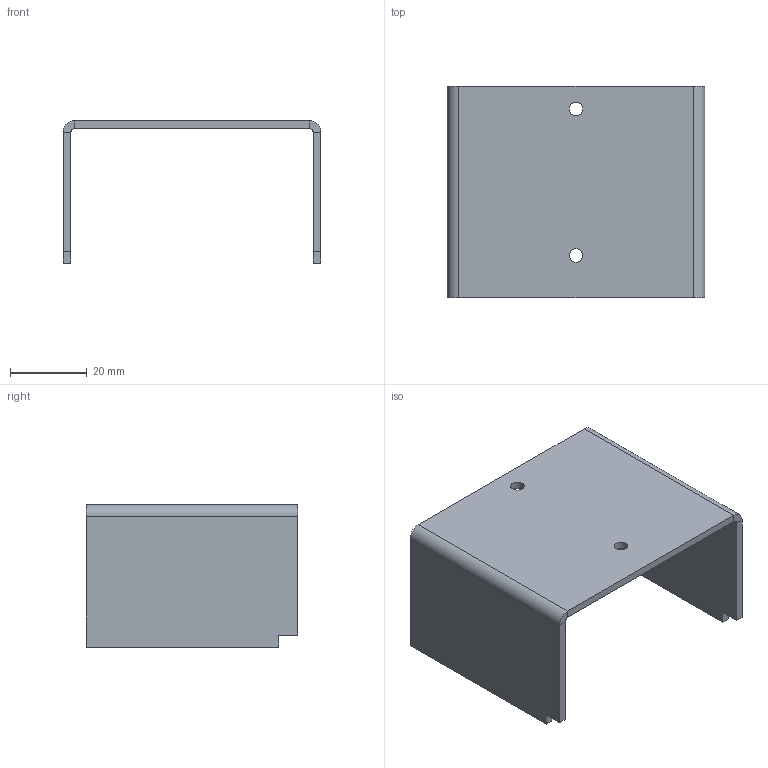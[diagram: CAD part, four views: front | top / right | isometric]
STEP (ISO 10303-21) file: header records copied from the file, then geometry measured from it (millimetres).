
FILE_DESCRIPTION(/* description */ ('','CAx-IF Rec.Pracs.---Representation and Presentation of Product Manufacturing Information (PMI)---4.0---2014-10-13'),/* implementation_level */ '2;1');
FILE_NAME(/* name */ 'G:\Alle CAD Daten\CAMTEC_2021_Pack and Go\PSU CPS-i3000 - CPS-i2000\2051038001.stp',/* time_stamp */ '2020-09-15T17:51:50+02:00',/* author */ ('rryba'),/* organization */ (''),/* preprocessor_version */ 'ST-DEVELOPER v18.1',/* originating_system */ 'Autodesk Inventor 2021',/* authorisation */ '');
FILE_SCHEMA (('AP242_MANAGED_MODEL_BASED_3D_ENGINEERING_MIM_LF { 1 0 10303 442 1 1 4 }'));
Length unit declared in the file: millimetre
Products named in the file (1): 2051038001
Bounding box: 67 x 55 x 37 mm (x, y, z)
Volume: 14782.7 mm3; surface area: 15587.8 mm2
Topology: 1 solids, 1 shells, 28 faces, 74 edges, 58 vertices
Faces by surface type: plane 22, cylinder 6
Full cylindrical faces by diameter (mm): 3.5 x2
Entity records: 874 total; most frequent: CARTESIAN_POINT 149, DIRECTION 136, ORIENTED_EDGE 124, EDGE_CURVE 62, LINE 50, VECTOR 50, AXIS2_PLACEMENT_3D 43, VERTEX_POINT 36
